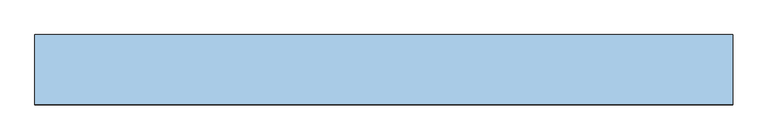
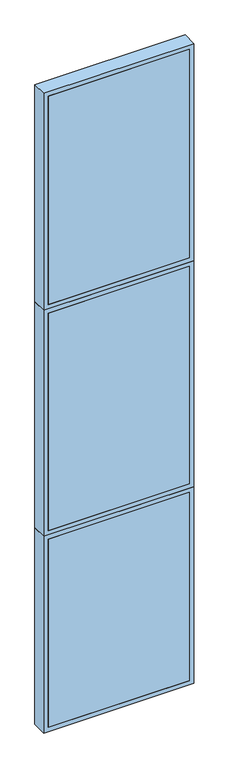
"""IFC4 building model written with IfcOpenShell, lengths in millimetres: window geometry, TRP_CP_ARC_FI_V1 : AL_P03_100."""

from ifc_helpers import new_model, si_unit, frame, origin, place, context, project, spatial, polyline, outline, extrude, source, transform, mapped, element, save


def window_04857959(model_context):
    return source(origin(), model_context, "Body", "SweptSolid", [
        extrude(outline(polyline([(470.0, -50.0), (-470.0, -50.0), (-470.0, -30.0), (470.0, -30.0), (470.0, -50.0)])), frame((0.0, 0.0, 30.0), z_axis=(0.0, 0.0, 1.0), x_axis=(1.0, 0.0, 0.0)), (0.0, 0.0, 1.0), 1323.0),
        extrude(outline(polyline([(1383.0, 500.0), (1383.0, -500.0), (0.0, -500.0), (0.0, 500.0), (1383.0, 500.0)]), holes=[polyline([(30.0, 470.0), (30.0, -470.0), (1353.0, -470.0), (1353.0, 470.0), (30.0, 470.0)])]), frame((0.0, -50.0, 0.0), z_axis=(0.0, 1.0, 0.0), x_axis=(0.0, 0.0, 1.0)), (0.0, 0.0, 1.0), 100.0),
        extrude(outline(polyline([(2973.0, 500.0), (2973.0, -500.0), (1383.0, -500.0), (1383.0, 500.0), (2973.0, 500.0)]), holes=[polyline([(1413.0, 470.0), (1413.0, -470.0), (2943.0, -470.0), (2943.0, 470.0), (1413.0, 470.0)])]), frame((0.0, -50.0, 0.0), z_axis=(0.0, 1.0, 0.0), x_axis=(0.0, 0.0, 1.0)), (0.0, 0.0, 1.0), 100.0),
        extrude(outline(polyline([(470.0, -50.0), (-470.0, -50.0), (-470.0, -30.0), (470.0, -30.0), (470.0, -50.0)])), frame((0.0, 0.0, 1413.0), z_axis=(0.0, 0.0, 1.0), x_axis=(1.0, 0.0, 0.0)), (0.0, 0.0, 1.0), 1530.0),
        extrude(outline(polyline([(4500.0, 500.0), (4500.0, -500.0), (2973.0, -500.0), (2973.0, 500.0), (4500.0, 500.0)]), holes=[polyline([(3003.0, 470.0), (3003.0, -470.0), (4470.0, -470.0), (4470.0, 470.0), (3003.0, 470.0)])]), frame((0.0, -50.0, 0.0), z_axis=(0.0, 1.0, 0.0), x_axis=(0.0, 0.0, 1.0)), (0.0, 0.0, 1.0), 100.0),
        extrude(outline(polyline([(470.0, -50.0), (-470.0, -50.0), (-470.0, -30.0), (470.0, -30.0), (470.0, -50.0)])), frame((0.0, 0.0, 3003.0), z_axis=(0.0, 0.0, 1.0), x_axis=(1.0, 0.0, 0.0)), (0.0, 0.0, 1.0), 1467.0),
    ])


if __name__ == "__main__":
    model = new_model("IFC4")
    model_context = context("Model", 3, world=origin())
    ifc_project = project(units=[si_unit("LENGTHUNIT", "METRE", prefix="MILLI")], contexts=[model_context])
    site = spatial("IfcSite", under=ifc_project)
    building = spatial("IfcBuilding", under=site)
    placement = place(None, origin())
    window_shape = window_04857959(model_context)
    element("IfcWindow", 1, ObjectType="TRP_CP_ARC_FI_V1 : AL_P03_100", at=placement, inside=building, context=model_context, shape_type="MappedRepresentation", body=[
        mapped(window_shape, transform((0.0, 0.0, 0.0), x_axis=(1.0, 0.0, 0.0), y_axis=(0.0, 1.0, 0.0), z_axis=(0.0, 0.0, 1.0))),
    ])
    save(model, "model.ifc")
